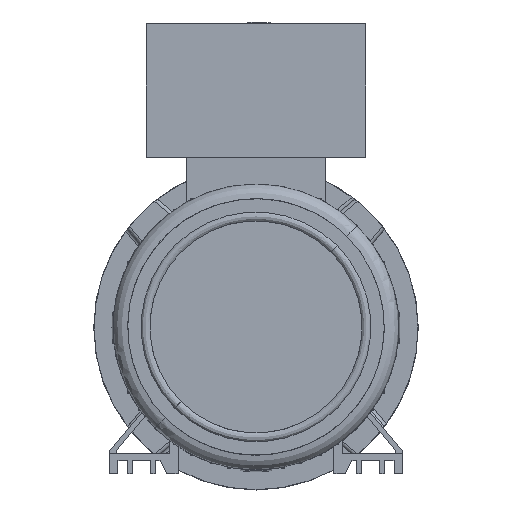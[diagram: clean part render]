
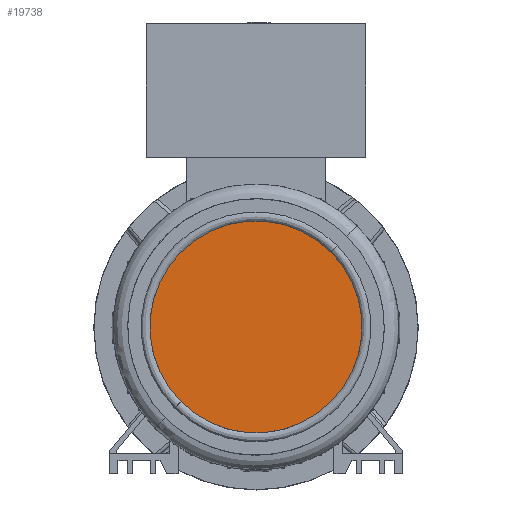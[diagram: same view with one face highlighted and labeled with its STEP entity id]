
A CAD part, top view. The second image highlights one B-rep face of the part: STEP entity #19738.
In plain terms, the highlighted planar face has unit normal (0, 0, 1).
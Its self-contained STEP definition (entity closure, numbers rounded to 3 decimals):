
#409 = AXIS2_PLACEMENT_3D ( 'NONE', #8988, #23605, #9381 ) ;
#3887 = DIRECTION ( 'NONE',  ( 0., 0., -1. ) ) ;
#4089 = VERTEX_POINT ( 'NONE', #26930 ) ;
#4342 = AXIS2_PLACEMENT_3D ( 'NONE', #33256, #3887, #30438 ) ;
#5534 = ORIENTED_EDGE ( 'NONE', *, *, #30474, .F. ) ;
#8988 = CARTESIAN_POINT ( 'NONE',  ( 0., 0., 158.5 ) ) ;
#9381 = DIRECTION ( 'NONE',  ( 0., 1., 0. ) ) ;
#9823 = PLANE ( 'NONE',  #4342 ) ;
#14808 = EDGE_LOOP ( 'NONE', ( #20840, #5534 ) ) ;
#16097 = EDGE_CURVE ( 'NONE', #4089, #36071, #27194, .T. ) ;
#19242 = DIRECTION ( 'NONE',  ( 0., 1., 0. ) ) ;
#19738 = ADVANCED_FACE ( 'NONE', ( #24498 ), #9823, .F. ) ;
#20840 = ORIENTED_EDGE ( 'NONE', *, *, #16097, .F. ) ;
#23083 = DIRECTION ( 'NONE',  ( 0., 0., -1. ) ) ;
#23605 = DIRECTION ( 'NONE',  ( 0., 0., -1. ) ) ;
#24498 = FACE_OUTER_BOUND ( 'NONE', #14808, .T. ) ;
#26930 = CARTESIAN_POINT ( 'NONE',  ( -46.166, -46.166, 158.5 ) ) ;
#27194 = CIRCLE ( 'NONE', #35748, 65.289 ) ;
#30438 = DIRECTION ( 'NONE',  ( 0., 1., 0. ) ) ;
#30474 = EDGE_CURVE ( 'NONE', #36071, #4089, #30892, .T. ) ;
#30892 = CIRCLE ( 'NONE', #409, 65.289 ) ;
#31819 = CARTESIAN_POINT ( 'NONE',  ( 0., 0., 158.5 ) ) ;
#33256 = CARTESIAN_POINT ( 'NONE',  ( -46.246, 46.246, 158.5 ) ) ;
#33653 = CARTESIAN_POINT ( 'NONE',  ( 46.166, 46.166, 158.5 ) ) ;
#35748 = AXIS2_PLACEMENT_3D ( 'NONE', #31819, #23083, #19242 ) ;
#36071 = VERTEX_POINT ( 'NONE', #33653 ) ;
